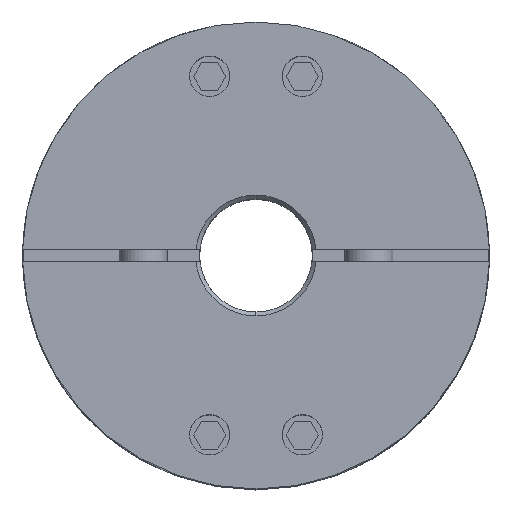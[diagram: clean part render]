
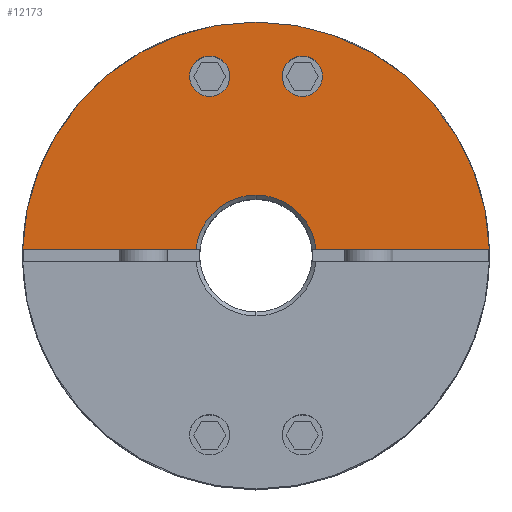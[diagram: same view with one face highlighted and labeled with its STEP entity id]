
A CAD part, top view. The second image highlights one B-rep face of the part: STEP entity #12173.
In plain terms, the highlighted planar face has unit normal (0, 0, 1).
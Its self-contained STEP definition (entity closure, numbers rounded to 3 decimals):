
#4737=CARTESIAN_POINT('',(5.759,24.767,35.75));
#4738=VERTEX_POINT('',#4737);
#4747=CARTESIAN_POINT('',(5.759,19.767,35.75));
#4748=VERTEX_POINT('',#4747);
#4749=CARTESIAN_POINT('',(5.759,22.267,35.75));
#4750=DIRECTION('',(0.0,0.0,-1.0));
#4751=DIRECTION('',(0.0,1.0,0.0));
#4752=AXIS2_PLACEMENT_3D('',#4749,#4750,#4751);
#4753=CIRCLE('',#4752,2.5);
#4754=EDGE_CURVE('',#4748,#4738,#4753,.T.);
#4779=CARTESIAN_POINT('',(-5.759,24.767,35.75));
#4780=VERTEX_POINT('',#4779);
#4789=CARTESIAN_POINT('',(-5.759,19.767,35.75));
#4790=VERTEX_POINT('',#4789);
#4791=CARTESIAN_POINT('',(-5.759,22.267,35.75));
#4792=DIRECTION('',(0.0,0.0,-1.0));
#4793=DIRECTION('',(0.0,1.0,0.0));
#4794=AXIS2_PLACEMENT_3D('',#4791,#4792,#4793);
#4795=CIRCLE('',#4794,2.5);
#4796=EDGE_CURVE('',#4790,#4780,#4795,.T.);
#5033=CARTESIAN_POINT('',(0.,29.0,35.75));
#5034=VERTEX_POINT('',#5033);
#5182=CARTESIAN_POINT('',(-28.99,0.75,35.75));
#5183=VERTEX_POINT('',#5182);
#5190=CARTESIAN_POINT('',(0.,0.0,35.75));
#5191=DIRECTION('',(0.0,0.0,-1.0));
#5192=DIRECTION('',(0.0,1.0,0.0));
#5193=AXIS2_PLACEMENT_3D('',#5190,#5191,#5192);
#5194=CIRCLE('',#5193,29.0);
#5195=EDGE_CURVE('',#5183,#5034,#5194,.T.);
#5367=CARTESIAN_POINT('',(0.,7.5,35.75));
#5368=VERTEX_POINT('',#5367);
#5384=CARTESIAN_POINT('',(7.462,0.75,35.75));
#5385=VERTEX_POINT('',#5384);
#5399=CARTESIAN_POINT('',(0.,0.0,35.75));
#5400=DIRECTION('',(0.0,0.0,1.0));
#5401=DIRECTION('',(0.0,1.0,0.0));
#5402=AXIS2_PLACEMENT_3D('',#5399,#5400,#5401);
#5403=CIRCLE('',#5402,7.5);
#5404=EDGE_CURVE('',#5385,#5368,#5403,.T.);
#11679=CARTESIAN_POINT('',(-7.462,0.75,35.75));
#11680=VERTEX_POINT('',#11679);
#11681=CARTESIAN_POINT('',(0.,0.0,35.75));
#11682=DIRECTION('',(0.0,0.0,1.0));
#11683=DIRECTION('',(0.0,1.0,0.0));
#11684=AXIS2_PLACEMENT_3D('',#11681,#11682,#11683);
#11685=CIRCLE('',#11684,7.5);
#11686=EDGE_CURVE('',#5368,#11680,#11685,.T.);
#11711=CARTESIAN_POINT('',(-28.99,0.75,35.75));
#11712=DIRECTION('',(1.0,0.0,0.0));
#11713=VECTOR('',#11712,21.528);
#11714=LINE('',#11711,#11713);
#11715=EDGE_CURVE('',#5183,#11680,#11714,.T.);
#11747=CARTESIAN_POINT('',(28.99,0.75,35.75));
#11748=VERTEX_POINT('',#11747);
#11755=CARTESIAN_POINT('',(7.462,0.75,35.75));
#11756=DIRECTION('',(1.0,0.0,0.0));
#11757=VECTOR('',#11756,21.528);
#11758=LINE('',#11755,#11757);
#11759=EDGE_CURVE('',#5385,#11748,#11758,.T.);
#11874=CARTESIAN_POINT('',(0.,0.0,35.75));
#11875=DIRECTION('',(0.0,0.0,-1.0));
#11876=DIRECTION('',(0.0,1.0,0.0));
#11877=AXIS2_PLACEMENT_3D('',#11874,#11875,#11876);
#11878=CIRCLE('',#11877,29.0);
#11879=EDGE_CURVE('',#5034,#11748,#11878,.T.);
#12112=CARTESIAN_POINT('',(-5.759,22.267,35.75));
#12113=DIRECTION('',(0.0,0.0,-1.0));
#12114=DIRECTION('',(0.0,1.0,0.0));
#12115=AXIS2_PLACEMENT_3D('',#12112,#12113,#12114);
#12116=CIRCLE('',#12115,2.5);
#12117=EDGE_CURVE('',#4780,#4790,#12116,.T.);
#12130=CARTESIAN_POINT('',(5.759,22.267,35.75));
#12131=DIRECTION('',(0.0,0.0,-1.0));
#12132=DIRECTION('',(0.0,1.0,0.0));
#12133=AXIS2_PLACEMENT_3D('',#12130,#12131,#12132);
#12134=CIRCLE('',#12133,2.5);
#12135=EDGE_CURVE('',#4738,#4748,#12134,.T.);
#12152=CARTESIAN_POINT('',(0.,2.636,35.75));
#12153=DIRECTION('',(0.0,0.0,1.0));
#12154=DIRECTION('',(0.0,1.0,0.0));
#12155=AXIS2_PLACEMENT_3D('',#12152,#12153,#12154);
#12156=PLANE('',#12155);
#12157=ORIENTED_EDGE('',*,*,#5404,.F.);
#12158=ORIENTED_EDGE('',*,*,#11759,.T.);
#12159=ORIENTED_EDGE('',*,*,#11879,.F.);
#12160=ORIENTED_EDGE('',*,*,#5195,.F.);
#12161=ORIENTED_EDGE('',*,*,#11715,.T.);
#12162=ORIENTED_EDGE('',*,*,#11686,.F.);
#12163=EDGE_LOOP('',(#12157,#12158,#12159,#12160,#12161,#12162));
#12164=FACE_OUTER_BOUND('',#12163,.T.);
#12165=ORIENTED_EDGE('',*,*,#12117,.T.);
#12166=ORIENTED_EDGE('',*,*,#4796,.T.);
#12167=EDGE_LOOP('',(#12165,#12166));
#12168=FACE_BOUND('',#12167,.T.);
#12169=ORIENTED_EDGE('',*,*,#12135,.T.);
#12170=ORIENTED_EDGE('',*,*,#4754,.T.);
#12171=EDGE_LOOP('',(#12169,#12170));
#12172=FACE_BOUND('',#12171,.T.);
#12173=ADVANCED_FACE('',(#12164,#12168,#12172),#12156,.T.);
